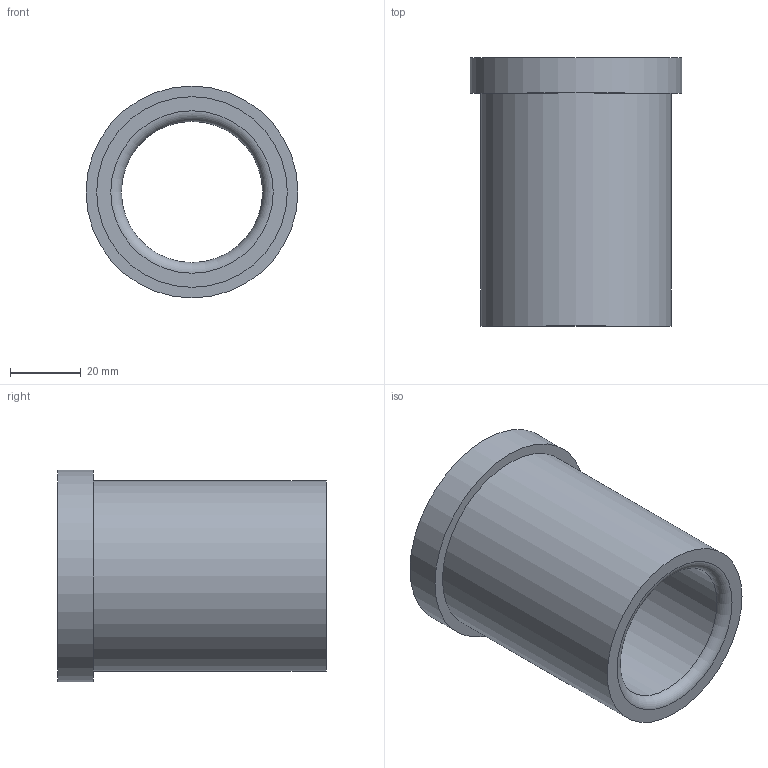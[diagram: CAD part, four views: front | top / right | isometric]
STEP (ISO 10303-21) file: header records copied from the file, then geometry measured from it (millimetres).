
FILE_DESCRIPTION(/* description */ ('STEP AP214'),/* implementation_level */ '2;1');
FILE_NAME(/* name */ '03_12_17952',/* time_stamp */ '2023-06-15T11:35:43+02:00',/* author */ ('License CC BY-ND 4.0'),/* organization */ ('CADENAS'),/* preprocessor_version */ 'ST-DEVELOPER v19.3',/* originating_system */ 'PARTsolutions',/* authorisation */ ' ');
FILE_SCHEMA (('AUTOMOTIVE_DESIGN {1 0 10303 214 3 1 1}'));
Length unit declared in the file: millimetre
Products named in the file (1): VA_Bushing_17952
Bounding box: 60 x 76 x 60 mm (x, y, z)
Volume: 82841.9 mm3; surface area: 25484.2 mm2
Topology: 1 solids, 1 shells, 10 faces, 16 edges, 10 vertices
Faces by surface type: cylinder 4, plane 4, torus 2
Full cylindrical faces by diameter (mm): 40 x1, 40.6 x1, 54 x1, 60 x1
Entity records: 302 total; most frequent: DIRECTION 42, CARTESIAN_POINT 31, AXIS2_PLACEMENT_3D 21, ORIENTED_EDGE 20, EDGE_LOOP 20, FACE_BOUND 20, EDGE_CURVE 10, VERTEX_POINT 10
